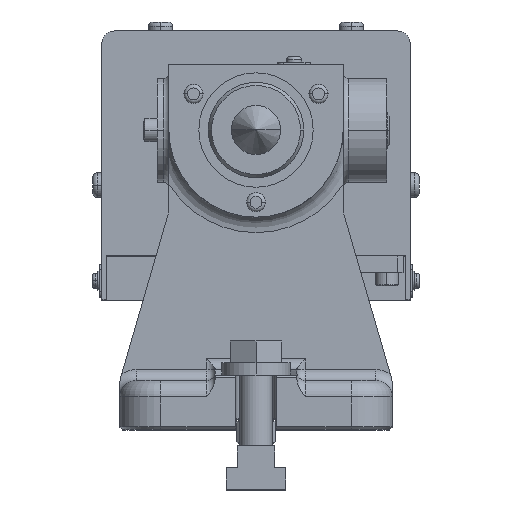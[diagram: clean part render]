
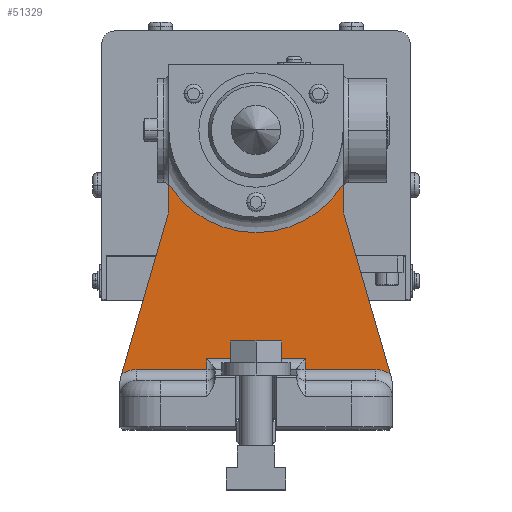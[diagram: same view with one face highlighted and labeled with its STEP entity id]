
A CAD part, top view. The second image highlights one B-rep face of the part: STEP entity #51329.
In plain terms, the highlighted planar face has unit normal (0, 0, 1) as drawn and (-1, 0, 0) by its records, which use the part's own axes.
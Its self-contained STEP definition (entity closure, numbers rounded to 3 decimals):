
#1720 = EDGE_CURVE ( 'NONE', #58022, #9304, #50617, .T. ) ;
#1971 = DIRECTION ( 'NONE',  ( 1., 0., 0. ) ) ;
#2078 = CARTESIAN_POINT ( 'NONE',  ( 25., 159., -18. ) ) ;
#2174 = DIRECTION ( 'NONE',  ( 0., 0., -1. ) ) ;
#2246 = AXIS2_PLACEMENT_3D ( 'NONE', #46402, #16591, #51469 ) ;
#2307 = CARTESIAN_POINT ( 'NONE',  ( 25., 110., 0. ) ) ;
#2958 = ORIENTED_EDGE ( 'NONE', *, *, #51503, .T. ) ;
#3783 = ORIENTED_EDGE ( 'NONE', *, *, #27247, .T. ) ;
#3809 = VECTOR ( 'NONE', #28908, 1000. ) ;
#4391 = CIRCLE ( 'NONE', #15862, 10. ) ;
#4629 = CARTESIAN_POINT ( 'NONE',  ( 25., 81.422, -42. ) ) ;
#4788 = CARTESIAN_POINT ( 'NONE',  ( 25., 159., -32. ) ) ;
#7340 = DIRECTION ( 'NONE',  ( 0., 0., -1. ) ) ;
#7634 = ORIENTED_EDGE ( 'NONE', *, *, #53979, .T. ) ;
#9304 = VERTEX_POINT ( 'NONE', #39995 ) ;
#9642 = DIRECTION ( 'NONE',  ( 0., 0., -1. ) ) ;
#9850 = CARTESIAN_POINT ( 'NONE',  ( 25., 22., -44. ) ) ;
#9854 = EDGE_CURVE ( 'NONE', #43851, #35431, #13560, .T. ) ;
#10296 = AXIS2_PLACEMENT_3D ( 'NONE', #61964, #32127, #2174 ) ;
#10696 = CARTESIAN_POINT ( 'NONE',  ( 25., 22., 18. ) ) ;
#10757 = VERTEX_POINT ( 'NONE', #10696 ) ;
#10839 = VECTOR ( 'NONE', #29449, 1000. ) ;
#11725 = CARTESIAN_POINT ( 'NONE',  ( 25., 20.495, -49.276 ) ) ;
#11847 = VERTEX_POINT ( 'NONE', #53069 ) ;
#12097 = VERTEX_POINT ( 'NONE', #40385 ) ;
#12163 = DIRECTION ( 'NONE',  ( 0., 1., 0. ) ) ;
#12922 = LINE ( 'NONE', #39516, #37892 ) ;
#13560 = LINE ( 'NONE', #27853, #25322 ) ;
#14005 = ORIENTED_EDGE ( 'NONE', *, *, #1720, .T. ) ;
#14681 = DIRECTION ( 'NONE',  ( 0., 0., 1. ) ) ;
#15100 = DIRECTION ( 'NONE',  ( 0., -0.96, 0.279 ) ) ;
#15862 = AXIS2_PLACEMENT_3D ( 'NONE', #31932, #1971, #36930 ) ;
#16591 = DIRECTION ( 'NONE',  ( 1., 0., 0. ) ) ;
#17465 = ORIENTED_EDGE ( 'NONE', *, *, #9854, .F. ) ;
#17498 = EDGE_CURVE ( 'NONE', #64039, #10757, #43585, .T. ) ;
#17827 = CIRCLE ( 'NONE', #2246, 10. ) ;
#18017 = ORIENTED_EDGE ( 'NONE', *, *, #20901, .T. ) ;
#18493 = VERTEX_POINT ( 'NONE', #32309 ) ;
#19328 = CARTESIAN_POINT ( 'NONE',  ( 25., 22., -50. ) ) ;
#19574 = CARTESIAN_POINT ( 'NONE',  ( 25., 22., -50. ) ) ;
#20244 = LINE ( 'NONE', #2078, #45164 ) ;
#20901 = EDGE_CURVE ( 'NONE', #18493, #64039, #12922, .T. ) ;
#21213 = EDGE_CURVE ( 'NONE', #45792, #59753, #44013, .T. ) ;
#21894 = EDGE_CURVE ( 'NONE', #50721, #37488, #38488, .T. ) ;
#22845 = AXIS2_PLACEMENT_3D ( 'NONE', #33189, #63234, #33408 ) ;
#23173 = VECTOR ( 'NONE', #59505, 1000. ) ;
#23656 = CARTESIAN_POINT ( 'NONE',  ( 25., 90.15, 32. ) ) ;
#24002 = FACE_OUTER_BOUND ( 'NONE', #53041, .T. ) ;
#24969 = CARTESIAN_POINT ( 'NONE',  ( 25., 174.815, 4.473 ) ) ;
#25215 = AXIS2_PLACEMENT_3D ( 'NONE', #4629, #39517, #9642 ) ;
#25322 = VECTOR ( 'NONE', #47792, 1000. ) ;
#25531 = CARTESIAN_POINT ( 'NONE',  ( 25., 20.495, 49.276 ) ) ;
#27247 = EDGE_CURVE ( 'NONE', #43851, #58022, #17827, .T. ) ;
#27853 = CARTESIAN_POINT ( 'NONE',  ( 25., 148.039, -12.247 ) ) ;
#28408 = PLANE ( 'NONE',  #22845 ) ;
#28908 = DIRECTION ( 'NONE',  ( 0., -1., 0. ) ) ;
#29449 = DIRECTION ( 'NONE',  ( 0., 0., 1. ) ) ;
#30467 = VERTEX_POINT ( 'NONE', #25531 ) ;
#30573 = DIRECTION ( 'NONE',  ( 0., -1., 0. ) ) ;
#31932 = CARTESIAN_POINT ( 'NONE',  ( 25., 12., 44. ) ) ;
#32127 = DIRECTION ( 'NONE',  ( 1., 0., 0. ) ) ;
#32309 = CARTESIAN_POINT ( 'NONE',  ( 25., 26., -18. ) ) ;
#32450 = EDGE_CURVE ( 'NONE', #9304, #18493, #20244, .T. ) ;
#33001 = CARTESIAN_POINT ( 'NONE',  ( 25., 26., 18. ) ) ;
#33189 = CARTESIAN_POINT ( 'NONE',  ( 25., 159., -50. ) ) ;
#33408 = DIRECTION ( 'NONE',  ( 0., 0., -1. ) ) ;
#34828 = ORIENTED_EDGE ( 'NONE', *, *, #17498, .T. ) ;
#35431 = VERTEX_POINT ( 'NONE', #59434 ) ;
#36467 = LINE ( 'NONE', #19574, #23173 ) ;
#36882 = ORIENTED_EDGE ( 'NONE', *, *, #32450, .T. ) ;
#36930 = DIRECTION ( 'NONE',  ( 0., 0., -1. ) ) ;
#37209 = EDGE_CURVE ( 'NONE', #11847, #30467, #4391, .T. ) ;
#37265 = DIRECTION ( 'NONE',  ( 1., 0., 0. ) ) ;
#37488 = VERTEX_POINT ( 'NONE', #38801 ) ;
#37892 = VECTOR ( 'NONE', #14681, 1000. ) ;
#37922 = AXIS2_PLACEMENT_3D ( 'NONE', #2307, #37265, #7340 ) ;
#38069 = ORIENTED_EDGE ( 'NONE', *, *, #21213, .T. ) ;
#38488 = CIRCLE ( 'NONE', #37922, 37.657 ) ;
#38509 = EDGE_CURVE ( 'NONE', #50721, #59753, #44722, .T. ) ;
#38801 = CARTESIAN_POINT ( 'NONE',  ( 25., 90.15, -32. ) ) ;
#39516 = CARTESIAN_POINT ( 'NONE',  ( 25., 26., -24.016 ) ) ;
#39517 = DIRECTION ( 'NONE',  ( 1., 0., 0. ) ) ;
#39669 = DIRECTION ( 'NONE',  ( 0., 1., 0. ) ) ;
#39995 = CARTESIAN_POINT ( 'NONE',  ( 25., 22., -18. ) ) ;
#40036 = EDGE_CURVE ( 'NONE', #12097, #37488, #42800, .T. ) ;
#40385 = CARTESIAN_POINT ( 'NONE',  ( 25., 81.422, -32. ) ) ;
#42800 = LINE ( 'NONE', #4788, #49053 ) ;
#43175 = VECTOR ( 'NONE', #30573, 1000. ) ;
#43431 = CARTESIAN_POINT ( 'NONE',  ( 25., 81.422, 32. ) ) ;
#43585 = LINE ( 'NONE', #53703, #3809 ) ;
#43716 = ORIENTED_EDGE ( 'NONE', *, *, #40036, .F. ) ;
#43851 = VERTEX_POINT ( 'NONE', #11725 ) ;
#44013 = CIRCLE ( 'NONE', #10296, 10. ) ;
#44722 = LINE ( 'NONE', #55377, #43175 ) ;
#45164 = VECTOR ( 'NONE', #12163, 1000. ) ;
#45792 = VERTEX_POINT ( 'NONE', #45813 ) ;
#45813 = CARTESIAN_POINT ( 'NONE',  ( 25., 78.634, 32.397 ) ) ;
#45969 = ORIENTED_EDGE ( 'NONE', *, *, #38509, .F. ) ;
#46402 = CARTESIAN_POINT ( 'NONE',  ( 25., 12., -44. ) ) ;
#47792 = DIRECTION ( 'NONE',  ( 0., 0.96, 0.279 ) ) ;
#49053 = VECTOR ( 'NONE', #39669, 1000. ) ;
#49190 = ORIENTED_EDGE ( 'NONE', *, *, #62038, .F. ) ;
#50617 = LINE ( 'NONE', #19328, #10839 ) ;
#50721 = VERTEX_POINT ( 'NONE', #23656 ) ;
#51329 = ADVANCED_FACE ( 'NONE', ( #24002 ), #28408, .F. ) ;
#51469 = DIRECTION ( 'NONE',  ( 0., 0., -1. ) ) ;
#51503 = EDGE_CURVE ( 'NONE', #10757, #11847, #36467, .T. ) ;
#53041 = EDGE_LOOP ( 'NONE', ( #14005, #36882, #18017, #34828, #2958, #60181, #49190, #38069, #45969, #53322, #43716, #7634, #17465, #3783 ) ) ;
#53043 = CIRCLE ( 'NONE', #25215, 10. ) ;
#53069 = CARTESIAN_POINT ( 'NONE',  ( 25., 22., 44. ) ) ;
#53322 = ORIENTED_EDGE ( 'NONE', *, *, #21894, .T. ) ;
#53703 = CARTESIAN_POINT ( 'NONE',  ( 25., 159., 18. ) ) ;
#53979 = EDGE_CURVE ( 'NONE', #12097, #35431, #53043, .T. ) ;
#55377 = CARTESIAN_POINT ( 'NONE',  ( 25., 159., 32. ) ) ;
#58022 = VERTEX_POINT ( 'NONE', #9850 ) ;
#58617 = VECTOR ( 'NONE', #15100, 1000. ) ;
#59434 = CARTESIAN_POINT ( 'NONE',  ( 25., 78.634, -32.397 ) ) ;
#59505 = DIRECTION ( 'NONE',  ( 0., 0., 1. ) ) ;
#59753 = VERTEX_POINT ( 'NONE', #43431 ) ;
#60181 = ORIENTED_EDGE ( 'NONE', *, *, #37209, .T. ) ;
#61788 = LINE ( 'NONE', #24969, #58617 ) ;
#61964 = CARTESIAN_POINT ( 'NONE',  ( 25., 81.422, 42. ) ) ;
#62038 = EDGE_CURVE ( 'NONE', #45792, #30467, #61788, .T. ) ;
#63234 = DIRECTION ( 'NONE',  ( 1., 0., 0. ) ) ;
#64039 = VERTEX_POINT ( 'NONE', #33001 ) ;
